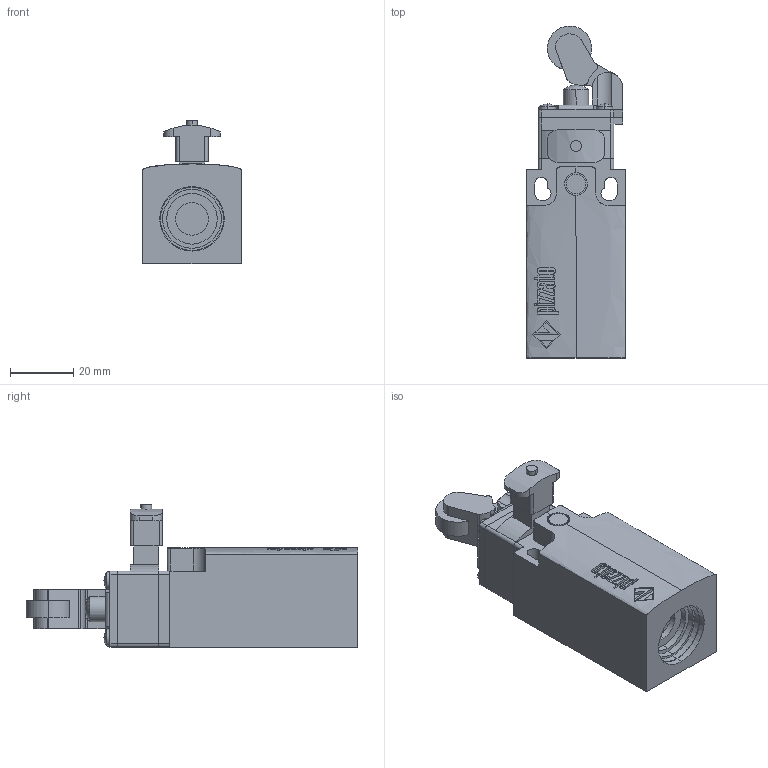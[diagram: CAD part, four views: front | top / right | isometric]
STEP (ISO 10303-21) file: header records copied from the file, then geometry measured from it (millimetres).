
FILE_DESCRIPTION (( 'STEP AP203' ), '1' );
FILE_NAME ('ZF_STEP_FR_x02-W3.STEP', '2024-02-26T08:50:36', ( '' ), ( '' ), 'SwSTEP 2.0', 'SolidWorks 2023', '' );
FILE_SCHEMA (( 'CONFIG_CONTROL_DESIGN' ));
Length unit declared in the file: millimetre
Products named in the file (9): ZF_STEP_VF_TE02; Pizzato_Modulo_Reset-W3_3dweb; Pizzato_Pulsante_TE01; Pizzato_Supporto_TE02; PIzzato_Leva_TE02_3407; Pizzato_Custodia_FR_3dweb; ZF_STEP_FR_x02-W3
Assembly tree (8 placements, depth 3):
  ZF_STEP_FR_x02-W3
    Pizzato_Custodia_FR_3dweb
      Pizzato_Custodia_FR_3dweb
    ZF_STEP_VF_TE02
      Pizzato_Supporto_TE02
      PIzzato_Leva_TE02_3407
      Pizzato_Pulsante_TE01
    Pizzato_Modulo_Reset-W3_3dweb
      Pizzato_Modulo_Reset-W3_3dweb
Bounding box: 31.2 x 105.04 x 45.4 mm (x, y, z)
Volume: 69708.1 mm3; surface area: 20407.4 mm2
Topology: 5 solids, 5 shells, 515 faces, 1359 edges, 901 vertices
Faces by surface type: plane 292, bspline 114, cylinder 99, sphere 10
Entity records: 20864 total; most frequent: CARTESIAN_POINT 7907, ORIENTED_EDGE 2718, DIRECTION 2085, EDGE_CURVE 1359, VERTEX_POINT 901, LINE 859, VECTOR 859, AXIS2_PLACEMENT_3D 613
